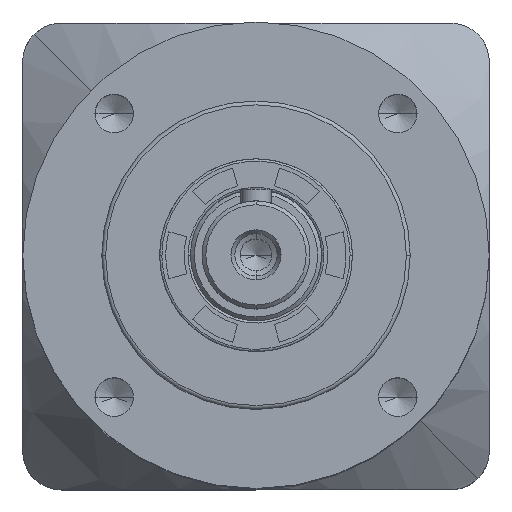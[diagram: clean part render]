
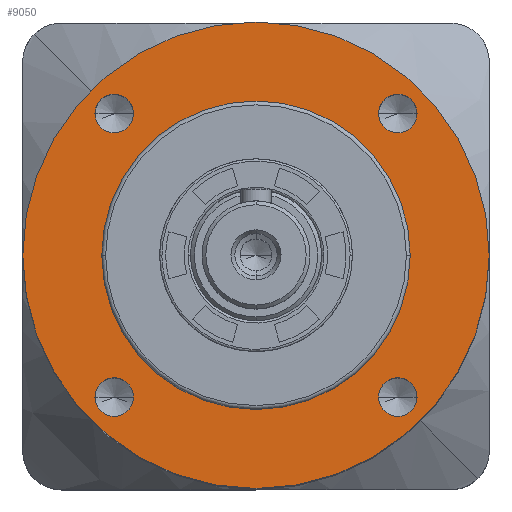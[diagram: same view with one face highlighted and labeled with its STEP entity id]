
A CAD part, top view. The second image highlights one B-rep face of the part: STEP entity #9050.
In plain terms, the highlighted planar face has unit normal (0, 0, 1).
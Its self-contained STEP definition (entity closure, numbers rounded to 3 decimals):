
#83 = ORIENTED_EDGE ( 'NONE', *, *, #14645, .F. ) ;
#392 = EDGE_LOOP ( 'NONE', ( #2369, #17164 ) ) ;
#857 = VERTEX_POINT ( 'NONE', #4814 ) ;
#899 = AXIS2_PLACEMENT_3D ( 'NONE', #14701, #29762, #27491 ) ;
#1044 = CARTESIAN_POINT ( 'NONE',  ( 18.385, -18.385, 17.9 ) ) ;
#1866 = AXIS2_PLACEMENT_3D ( 'NONE', #21716, #19225, #11857 ) ;
#2051 = DIRECTION ( 'NONE',  ( 0., 0., 1. ) ) ;
#2228 = VERTEX_POINT ( 'NONE', #17321 ) ;
#2356 = CARTESIAN_POINT ( 'NONE',  ( -18.385, 18.385, 17.9 ) ) ;
#2369 = ORIENTED_EDGE ( 'NONE', *, *, #4788, .F. ) ;
#2689 = DIRECTION ( 'NONE',  ( 1., 0., 0. ) ) ;
#3145 = AXIS2_PLACEMENT_3D ( 'NONE', #18109, #20803, #6154 ) ;
#3392 = EDGE_CURVE ( 'NONE', #13198, #19774, #9735, .T. ) ;
#4132 = FACE_BOUND ( 'NONE', #11888, .T. ) ;
#4401 = CIRCLE ( 'NONE', #16684, 20. ) ;
#4754 = CARTESIAN_POINT ( 'NONE',  ( 0., 0., 17.9 ) ) ;
#4788 = EDGE_CURVE ( 'NONE', #19774, #13198, #8951, .T. ) ;
#4814 = CARTESIAN_POINT ( 'NONE',  ( -20., 0., 17.9 ) ) ;
#4881 = FACE_BOUND ( 'NONE', #19100, .T. ) ;
#5574 = AXIS2_PLACEMENT_3D ( 'NONE', #26020, #28515, #6374 ) ;
#6041 = EDGE_CURVE ( 'NONE', #26489, #24974, #21159, .T. ) ;
#6154 = DIRECTION ( 'NONE',  ( 1., 0., 0. ) ) ;
#6346 = DIRECTION ( 'NONE',  ( 1., 0., 0. ) ) ;
#6362 = DIRECTION ( 'NONE',  ( 0., 0., 1. ) ) ;
#6374 = DIRECTION ( 'NONE',  ( 1., 0., 0. ) ) ;
#6476 = FACE_BOUND ( 'NONE', #18609, .T. ) ;
#8951 = CIRCLE ( 'NONE', #23120, 2.5 ) ;
#9013 = ORIENTED_EDGE ( 'NONE', *, *, #25966, .F. ) ;
#9050 = ADVANCED_FACE ( 'NONE', ( #6476, #4881, #10748, #20439, #4132, #32070 ), #28400, .T. ) ;
#9336 = EDGE_CURVE ( 'NONE', #15011, #14146, #31694, .T. ) ;
#9360 = CARTESIAN_POINT ( 'NONE',  ( 20., 0., 17.9 ) ) ;
#9407 = AXIS2_PLACEMENT_3D ( 'NONE', #11344, #28588, #6346 ) ;
#9458 = AXIS2_PLACEMENT_3D ( 'NONE', #21212, #6362, #31086 ) ;
#9660 = VERTEX_POINT ( 'NONE', #27076 ) ;
#9735 = CIRCLE ( 'NONE', #25581, 2.5 ) ;
#10061 = EDGE_LOOP ( 'NONE', ( #25804, #23842 ) ) ;
#10748 = FACE_BOUND ( 'NONE', #392, .T. ) ;
#11344 = CARTESIAN_POINT ( 'NONE',  ( -18.385, -18.385, 17.9 ) ) ;
#11390 = VERTEX_POINT ( 'NONE', #31313 ) ;
#11575 = DIRECTION ( 'NONE',  ( 1., 0., 0. ) ) ;
#11707 = EDGE_CURVE ( 'NONE', #24974, #26489, #13422, .T. ) ;
#11857 = DIRECTION ( 'NONE',  ( 1., 0., 0. ) ) ;
#11888 = EDGE_LOOP ( 'NONE', ( #22466, #15061 ) ) ;
#12129 = EDGE_CURVE ( 'NONE', #9660, #28445, #21165, .T. ) ;
#13043 = EDGE_CURVE ( 'NONE', #2228, #11390, #16879, .T. ) ;
#13142 = ORIENTED_EDGE ( 'NONE', *, *, #27060, .F. ) ;
#13190 = DIRECTION ( 'NONE',  ( 1., 0., 0. ) ) ;
#13198 = VERTEX_POINT ( 'NONE', #18825 ) ;
#13422 = CIRCLE ( 'NONE', #1866, 30.25 ) ;
#13690 = EDGE_CURVE ( 'NONE', #26878, #857, #4401, .T. ) ;
#13979 = DIRECTION ( 'NONE',  ( 0., 0., 1. ) ) ;
#14122 = CIRCLE ( 'NONE', #29161, 2.5 ) ;
#14146 = VERTEX_POINT ( 'NONE', #23865 ) ;
#14264 = CARTESIAN_POINT ( 'NONE',  ( -15.885, 18.385, 17.9 ) ) ;
#14535 = AXIS2_PLACEMENT_3D ( 'NONE', #16470, #13979, #11575 ) ;
#14645 = EDGE_CURVE ( 'NONE', #11390, #2228, #14122, .T. ) ;
#14701 = CARTESIAN_POINT ( 'NONE',  ( 18.385, -18.385, 17.9 ) ) ;
#15011 = VERTEX_POINT ( 'NONE', #20023 ) ;
#15061 = ORIENTED_EDGE ( 'NONE', *, *, #13690, .F. ) ;
#15738 = DIRECTION ( 'NONE',  ( 0., 0., 1. ) ) ;
#15790 = CIRCLE ( 'NONE', #17731, 2.5 ) ;
#15831 = CIRCLE ( 'NONE', #9458, 20. ) ;
#16433 = ORIENTED_EDGE ( 'NONE', *, *, #13043, .F. ) ;
#16470 = CARTESIAN_POINT ( 'NONE',  ( 18.385, 18.385, 17.9 ) ) ;
#16684 = AXIS2_PLACEMENT_3D ( 'NONE', #4754, #17042, #29818 ) ;
#16879 = CIRCLE ( 'NONE', #9407, 2.5 ) ;
#17042 = DIRECTION ( 'NONE',  ( 0., 0., 1. ) ) ;
#17149 = DIRECTION ( 'NONE',  ( 1., 0., 0. ) ) ;
#17164 = ORIENTED_EDGE ( 'NONE', *, *, #3392, .F. ) ;
#17321 = CARTESIAN_POINT ( 'NONE',  ( -15.885, -18.385, 17.9 ) ) ;
#17731 = AXIS2_PLACEMENT_3D ( 'NONE', #26924, #29513, #2689 ) ;
#18109 = CARTESIAN_POINT ( 'NONE',  ( 0., 0., 17.9 ) ) ;
#18324 = EDGE_CURVE ( 'NONE', #857, #26878, #15831, .T. ) ;
#18549 = DIRECTION ( 'NONE',  ( 1., 0., 0. ) ) ;
#18605 = CARTESIAN_POINT ( 'NONE',  ( 30.25, 0., 17.9 ) ) ;
#18609 = EDGE_LOOP ( 'NONE', ( #23838, #9013 ) ) ;
#18825 = CARTESIAN_POINT ( 'NONE',  ( -20.885, 18.385, 17.9 ) ) ;
#19100 = EDGE_LOOP ( 'NONE', ( #13142, #28703 ) ) ;
#19225 = DIRECTION ( 'NONE',  ( 0., 0., 1. ) ) ;
#19774 = VERTEX_POINT ( 'NONE', #14264 ) ;
#20023 = CARTESIAN_POINT ( 'NONE',  ( 15.885, 18.385, 17.9 ) ) ;
#20124 = CARTESIAN_POINT ( 'NONE',  ( -18.385, -18.385, 17.9 ) ) ;
#20439 = FACE_BOUND ( 'NONE', #29522, .T. ) ;
#20803 = DIRECTION ( 'NONE',  ( 0., 0., 1. ) ) ;
#21159 = CIRCLE ( 'NONE', #3145, 30.25 ) ;
#21165 = CIRCLE ( 'NONE', #23093, 2.5 ) ;
#21212 = CARTESIAN_POINT ( 'NONE',  ( 0., 0., 17.9 ) ) ;
#21716 = CARTESIAN_POINT ( 'NONE',  ( 0., 0., 17.9 ) ) ;
#22466 = ORIENTED_EDGE ( 'NONE', *, *, #18324, .F. ) ;
#22739 = DIRECTION ( 'NONE',  ( 0., 0., 1. ) ) ;
#22849 = DIRECTION ( 'NONE',  ( 1., 0., 0. ) ) ;
#23093 = AXIS2_PLACEMENT_3D ( 'NONE', #1044, #15738, #18549 ) ;
#23120 = AXIS2_PLACEMENT_3D ( 'NONE', #2356, #2051, #17149 ) ;
#23838 = ORIENTED_EDGE ( 'NONE', *, *, #12129, .F. ) ;
#23842 = ORIENTED_EDGE ( 'NONE', *, *, #11707, .T. ) ;
#23865 = CARTESIAN_POINT ( 'NONE',  ( 20.885, 18.385, 17.9 ) ) ;
#24974 = VERTEX_POINT ( 'NONE', #25991 ) ;
#25581 = AXIS2_PLACEMENT_3D ( 'NONE', #25873, #30850, #13190 ) ;
#25804 = ORIENTED_EDGE ( 'NONE', *, *, #6041, .T. ) ;
#25873 = CARTESIAN_POINT ( 'NONE',  ( -18.385, 18.385, 17.9 ) ) ;
#25966 = EDGE_CURVE ( 'NONE', #28445, #9660, #26299, .T. ) ;
#25991 = CARTESIAN_POINT ( 'NONE',  ( -30.25, 0., 17.9 ) ) ;
#26020 = CARTESIAN_POINT ( 'NONE',  ( 0., 0., 17.9 ) ) ;
#26299 = CIRCLE ( 'NONE', #899, 2.5 ) ;
#26489 = VERTEX_POINT ( 'NONE', #18605 ) ;
#26878 = VERTEX_POINT ( 'NONE', #9360 ) ;
#26924 = CARTESIAN_POINT ( 'NONE',  ( 18.385, 18.385, 17.9 ) ) ;
#27060 = EDGE_CURVE ( 'NONE', #14146, #15011, #15790, .T. ) ;
#27076 = CARTESIAN_POINT ( 'NONE',  ( 20.885, -18.385, 17.9 ) ) ;
#27491 = DIRECTION ( 'NONE',  ( 1., 0., 0. ) ) ;
#28400 = PLANE ( 'NONE',  #5574 ) ;
#28445 = VERTEX_POINT ( 'NONE', #30885 ) ;
#28515 = DIRECTION ( 'NONE',  ( 0., 0., 1. ) ) ;
#28588 = DIRECTION ( 'NONE',  ( 0., 0., 1. ) ) ;
#28703 = ORIENTED_EDGE ( 'NONE', *, *, #9336, .F. ) ;
#29161 = AXIS2_PLACEMENT_3D ( 'NONE', #20124, #22739, #22849 ) ;
#29513 = DIRECTION ( 'NONE',  ( 0., 0., 1. ) ) ;
#29522 = EDGE_LOOP ( 'NONE', ( #16433, #83 ) ) ;
#29762 = DIRECTION ( 'NONE',  ( 0., 0., 1. ) ) ;
#29818 = DIRECTION ( 'NONE',  ( 1., 0., 0. ) ) ;
#30850 = DIRECTION ( 'NONE',  ( 0., 0., 1. ) ) ;
#30885 = CARTESIAN_POINT ( 'NONE',  ( 15.885, -18.385, 17.9 ) ) ;
#31086 = DIRECTION ( 'NONE',  ( 1., 0., 0. ) ) ;
#31313 = CARTESIAN_POINT ( 'NONE',  ( -20.885, -18.385, 17.9 ) ) ;
#31694 = CIRCLE ( 'NONE', #14535, 2.5 ) ;
#32070 = FACE_OUTER_BOUND ( 'NONE', #10061, .T. ) ;
